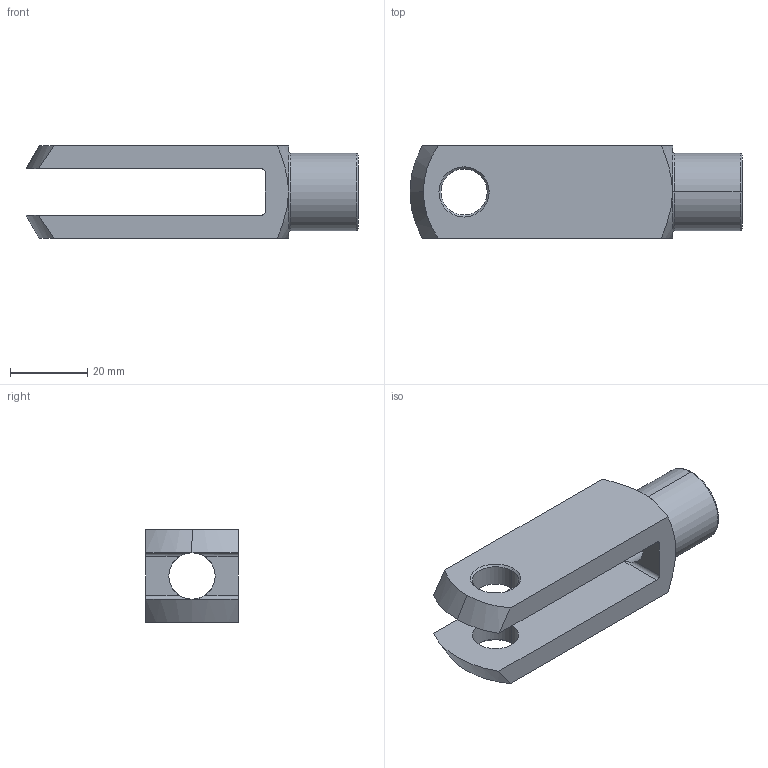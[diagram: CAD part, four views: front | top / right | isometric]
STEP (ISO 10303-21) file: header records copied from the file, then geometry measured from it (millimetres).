
FILE_DESCRIPTION (( 'STEP AP203' ), '1' );
FILE_NAME ('65635.W0125.step', '2014-01-17T13:06:21', ( 'User' ), ( '' ), 'SwSTEP 2.0', 'SolidWorks 2009', '' );
FILE_SCHEMA (( 'CONFIG_CONTROL_DESIGN' ));
Length unit declared in the file: millimetre
Products named in the file (1): 65635.W0125
Bounding box: 86 x 24 x 24 mm (x, y, z)
Volume: 21954.3 mm3; surface area: 10481.9 mm2
Topology: 1 solids, 1 shells, 39 faces, 93 edges, 56 vertices
Faces by surface type: cone 13, cylinder 12, plane 10, torus 4
Entity records: 1308 total; most frequent: CARTESIAN_POINT 313, DIRECTION 201, ORIENTED_EDGE 186, EDGE_CURVE 93, AXIS2_PLACEMENT_3D 84, VERTEX_POINT 56, EDGE_LOOP 45, CIRCLE 44
